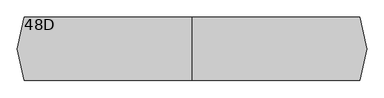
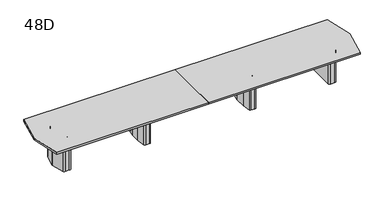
"""IFC4 building model written with IfcOpenShell, lengths in millimetres: furniture geometry, Coalesse_AM_Table_Conference_ETable2_Faceted_22ft_FourBase : 48D."""

from ifc_helpers import new_model, si_unit, frame, origin, place, context, project, spatial, polyline, circle_curve, outline, extrude, source, transform, mapped, element, save
from ifc_brep_helpers import plane_surface, cylinder_surface, revolved_surface, advanced_brep


def furniture_48d_5249ccaa(model_context):
    return source(origin(), model_context, "Body", "SolidModel", [
        advanced_brep(
        [(1153.31875, 206.375, 3.175), (1127.91875, 231.775, 3.175), (1107.28125, 231.775, 3.175), (1081.88125, 206.375, 3.175), (1081.88125, -206.375, 3.175), (1107.28125, -231.775, 3.175), (1127.91875, -231.775, 3.175), (1153.31875, -206.375, 3.175), (1056.48125, 206.375, 0.0), (1107.28125, 257.175, 0.0), (1127.91875, 257.175, 0.0), (1178.71875, 206.375, 0.0), (1178.71875, -206.375, 0.0), (1127.91875, -257.175, 0.0), (1107.28125, -257.175, 0.0), (1056.48125, -206.375, 0.0), (1056.48125, -206.375, 3.175), (1056.48125, 206.375, 3.175), (1107.28125, -257.175, 3.175), (1127.91875, -257.175, 3.175), (1178.71875, -206.375, 3.175), (1178.71875, 206.375, 3.175), (1127.91875, 257.175, 3.175), (1107.28125, 257.175, 3.175), (1024.9784026, 106.2976848, 698.5), (1024.73125, 102.7629613, 698.5), (1024.73125, -102.7629613, 698.5), (1024.9784026, -106.2976848, 698.5), (1049.8011625, -282.9347235, 698.5), (1074.9540098, -304.8, 698.5), (1160.2459902, -304.8, 698.5), (1185.3988375, -282.9347235, 698.5), (1210.2215974, -106.2976848, 698.5), (1210.46875, -102.7629613, 698.5), (1210.46875, 102.7629613, 698.5), (1210.2215974, 106.2976848, 698.5), (1185.3988375, 282.9347235, 698.5), (1160.2459902, 304.8, 698.5), (1074.9540098, 304.8, 698.5), (1049.8011625, 282.9347235, 698.5), (1127.91875, 231.775, 698.5), (1153.31875, 206.375, 698.5), (1153.31875, -206.375, 698.5), (1127.91875, -231.775, 698.5), (1107.28125, -231.775, 698.5), (1081.88125, -206.375, 698.5), (1081.88125, 206.375, 698.5), (1107.28125, 231.775, 698.5), (1024.9784026, 106.2976848, 3.175), (1049.8011625, 282.9347235, 3.175), (1074.9540098, 304.8, 3.175), (1160.2459902, 304.8, 3.175), (1185.3988375, 282.9347235, 3.175), (1210.2215974, 106.2976848, 3.175), (1210.46875, 102.7629613, 3.175), (1210.46875, -102.7629613, 3.175), (1210.2215974, -106.2976848, 3.175), (1185.3988375, -282.9347235, 3.175), (1160.2459902, -304.8, 3.175), (1074.9540098, -304.8, 3.175), (1049.8011625, -282.9347235, 3.175), (1024.9784026, -106.2976848, 3.175), (1024.73125, -102.7629613, 3.175), (1024.73125, 102.7629613, 3.175)],
        [
            (0, 1, circle_curve(frame((1127.91875, 206.375, 3.175), z_axis=(0.0, 0.0, 1.0), x_axis=(1.0, 0.0, 0.0)), 25.4)),
            (1, 2),
            (2, 3, circle_curve(frame((1107.28125, 206.375, 3.175), z_axis=(0.0, 0.0, 1.0), x_axis=(1.0, 0.0, 0.0)), 25.4)),
            (3, 4),
            (4, 5, circle_curve(frame((1107.28125, -206.375, 3.175), z_axis=(0.0, 0.0, 1.0), x_axis=(1.0, 0.0, 0.0)), 25.4)),
            (5, 6),
            (6, 7, circle_curve(frame((1127.91875, -206.375, 3.175), z_axis=(0.0, 0.0, 1.0), x_axis=(1.0, 0.0, 0.0)), 25.4)),
            (7, 0),
            (8, 9, circle_curve(frame((1107.28125, 206.375, 0.0), z_axis=(0.0, 0.0, -1.0), x_axis=(1.0, 0.0, 0.0)), 50.8)),
            (9, 10),
            (10, 11, circle_curve(frame((1127.91875, 206.375, 0.0), z_axis=(0.0, 0.0, -1.0), x_axis=(1.0, 0.0, 0.0)), 50.8)),
            (11, 12),
            (12, 13, circle_curve(frame((1127.91875, -206.375, 0.0), z_axis=(0.0, 0.0, -1.0), x_axis=(1.0, 0.0, 0.0)), 50.8)),
            (13, 14),
            (14, 15, circle_curve(frame((1107.28125, -206.375, 0.0), z_axis=(0.0, 0.0, -1.0), x_axis=(1.0, 0.0, 0.0)), 50.8)),
            (15, 8),
            (15, 16),
            (16, 17),
            (17, 8),
            (14, 18),
            (18, 16, circle_curve(frame((1107.28125, -206.375, 3.175), z_axis=(0.0, 0.0, -1.0), x_axis=(1.0, 0.0, 0.0)), 50.8)),
            (13, 19),
            (19, 18),
            (12, 20),
            (20, 19, circle_curve(frame((1127.91875, -206.375, 3.175), z_axis=(0.0, 0.0, -1.0), x_axis=(1.0, 0.0, 0.0)), 50.8)),
            (11, 21),
            (21, 20),
            (10, 22),
            (22, 21, circle_curve(frame((1127.91875, 206.375, 3.175), z_axis=(0.0, 0.0, -1.0), x_axis=(1.0, 0.0, 0.0)), 50.8)),
            (9, 23),
            (23, 22),
            (17, 23, circle_curve(frame((1107.28125, 206.375, 3.175), z_axis=(0.0, 0.0, -1.0), x_axis=(1.0, 0.0, 0.0)), 50.8)),
            (24, 25, circle_curve(frame((1050.13125, 102.7629613, 698.5), z_axis=(0.0, 0.0, 1.0), x_axis=(1.0, 0.0, 0.0)), 25.4)),
            (25, 26),
            (26, 27, circle_curve(frame((1050.13125, -102.7629613, 698.5), z_axis=(0.0, 0.0, 1.0), x_axis=(1.0, 0.0, 0.0)), 25.4)),
            (27, 28),
            (28, 29, circle_curve(frame((1074.9540098, -279.4, 698.5), z_axis=(0.0, 0.0, 1.0), x_axis=(1.0, 0.0, 0.0)), 25.4)),
            (29, 30),
            (30, 31, circle_curve(frame((1160.2459902, -279.4, 698.5), z_axis=(0.0, 0.0, 1.0), x_axis=(1.0, 0.0, 0.0)), 25.4)),
            (31, 32),
            (32, 33, circle_curve(frame((1185.06875, -102.7629613, 698.5), z_axis=(0.0, 0.0, 1.0), x_axis=(1.0, 0.0, 0.0)), 25.4)),
            (33, 34),
            (34, 35, circle_curve(frame((1185.06875, 102.7629613, 698.5), z_axis=(0.0, 0.0, 1.0), x_axis=(1.0, 0.0, 0.0)), 25.4)),
            (35, 36),
            (36, 37, circle_curve(frame((1160.2459902, 279.4, 698.5), z_axis=(0.0, 0.0, 1.0), x_axis=(1.0, 0.0, 0.0)), 25.4)),
            (37, 38),
            (38, 39, circle_curve(frame((1074.9540098, 279.4, 698.5), z_axis=(0.0, 0.0, 1.0), x_axis=(1.0, 0.0, 0.0)), 25.4)),
            (39, 24),
            (40, 41, circle_curve(frame((1127.91875, 206.375, 698.5), z_axis=(0.0, 0.0, -1.0), x_axis=(1.0, 0.0, 0.0)), 25.4)),
            (41, 42),
            (42, 43, circle_curve(frame((1127.91875, -206.375, 698.5), z_axis=(0.0, 0.0, -1.0), x_axis=(1.0, 0.0, 0.0)), 25.4)),
            (43, 44),
            (44, 45, circle_curve(frame((1107.28125, -206.375, 698.5), z_axis=(0.0, 0.0, -1.0), x_axis=(1.0, 0.0, 0.0)), 25.4)),
            (45, 46),
            (46, 47, circle_curve(frame((1107.28125, 206.375, 698.5), z_axis=(0.0, 0.0, -1.0), x_axis=(1.0, 0.0, 0.0)), 25.4)),
            (47, 40),
            (48, 49),
            (49, 50, circle_curve(frame((1074.9540098, 279.4, 3.175), z_axis=(0.0, 0.0, -1.0), x_axis=(1.0, 0.0, 0.0)), 25.4)),
            (50, 51),
            (51, 52, circle_curve(frame((1160.2459902, 279.4, 3.175), z_axis=(0.0, 0.0, -1.0), x_axis=(1.0, 0.0, 0.0)), 25.4)),
            (52, 53),
            (53, 54, circle_curve(frame((1185.06875, 102.7629613, 3.175), z_axis=(0.0, 0.0, -1.0), x_axis=(1.0, 0.0, 0.0)), 25.4)),
            (54, 55),
            (55, 56, circle_curve(frame((1185.06875, -102.7629613, 3.175), z_axis=(0.0, 0.0, -1.0), x_axis=(1.0, 0.0, 0.0)), 25.4)),
            (56, 57),
            (57, 58, circle_curve(frame((1160.2459902, -279.4, 3.175), z_axis=(0.0, 0.0, -1.0), x_axis=(1.0, 0.0, 0.0)), 25.4)),
            (58, 59),
            (59, 60, circle_curve(frame((1074.9540098, -279.4, 3.175), z_axis=(0.0, 0.0, -1.0), x_axis=(1.0, 0.0, 0.0)), 25.4)),
            (60, 61),
            (61, 62, circle_curve(frame((1050.13125, -102.7629613, 3.175), z_axis=(0.0, 0.0, -1.0), x_axis=(1.0, 0.0, 0.0)), 25.4)),
            (62, 63),
            (63, 48, circle_curve(frame((1050.13125, 102.7629613, 3.175), z_axis=(0.0, 0.0, -1.0), x_axis=(1.0, 0.0, 0.0)), 25.4)),
            (24, 48),
            (63, 25),
            (62, 26),
            (61, 27),
            (60, 28),
            (59, 29),
            (58, 30),
            (57, 31),
            (56, 32),
            (55, 33),
            (54, 34),
            (53, 35),
            (52, 36),
            (51, 37),
            (50, 38),
            (49, 39),
            (40, 1),
            (0, 41),
            (7, 42),
            (6, 43),
            (5, 44),
            (4, 45),
            (3, 46),
            (2, 47),
        ],
        [
            plane_surface(frame((1056.48125, -206.375, 3.175), z_axis=(0.0, 0.0, 1.0), x_axis=(0.0, -1.0, 0.0))),
            plane_surface(frame((1056.48125, -206.375, 0.0), z_axis=(0.0, 0.0, -1.0), x_axis=(0.0, 1.0, 0.0))),
            plane_surface(frame((1056.48125, 206.375, 3.175), z_axis=(-1.0, 0.0, 0.0), x_axis=(0.0, 0.0, -1.0))),
            cylinder_surface(frame((1107.28125, -206.375, 0.0), z_axis=(0.0, 0.0, 1.0), x_axis=(1.0, 0.0, 0.0)), 50.8),
            plane_surface(frame((1107.28125, -257.175, 3.175), z_axis=(0.0, -1.0, 0.0), x_axis=(0.0, 0.0, -1.0))),
            cylinder_surface(frame((1127.91875, -206.375, 0.0), z_axis=(0.0, 0.0, 1.0), x_axis=(1.0, 0.0, 0.0)), 50.8),
            plane_surface(frame((1178.71875, -206.375, 3.175), z_axis=(1.0, 0.0, 0.0), x_axis=(0.0, 0.0, -1.0))),
            cylinder_surface(frame((1127.91875, 206.375, 0.0), z_axis=(0.0, 0.0, 1.0), x_axis=(1.0, 0.0, 0.0)), 50.8),
            plane_surface(frame((1127.91875, 257.175, 3.175), z_axis=(0.0, 1.0, 0.0), x_axis=(0.0, 0.0, -1.0))),
            cylinder_surface(frame((1107.28125, 206.375, 0.0), z_axis=(0.0, 0.0, 1.0), x_axis=(1.0, 0.0, 0.0)), 50.8),
            plane_surface(frame((1075.53125, 102.7629613, 698.5), z_axis=(0.0, 0.0, 1.0), x_axis=(0.0, 1.0, 0.0))),
            plane_surface(frame((1075.53125, 102.7629613, 3.175), z_axis=(0.0, 0.0, -1.0), x_axis=(0.0, -1.0, 0.0))),
            cylinder_surface(frame((1050.13125, 102.7629613, 3.175), z_axis=(0.0, 0.0, 1.0), x_axis=(1.0, 0.0, 0.0)), 25.4),
            plane_surface(frame((1024.73125, 102.7629613, 698.5), z_axis=(-1.0, 0.0, 0.0), x_axis=(0.0, 0.0, -1.0))),
            cylinder_surface(frame((1050.13125, -102.7629613, 3.175), z_axis=(0.0, 0.0, 1.0), x_axis=(1.0, 0.0, 0.0)), 25.4),
            plane_surface(frame((1024.9784026, -106.2976848, 698.5), z_axis=(-0.9902695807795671, -0.13916234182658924, 0.0), x_axis=(0.0, 0.0, -1.0))),
            cylinder_surface(frame((1074.9540098, -279.4, 3.175), z_axis=(0.0, 0.0, 1.0), x_axis=(1.0, 0.0, 0.0)), 25.4),
            plane_surface(frame((1074.9540098, -304.8, 698.5), z_axis=(0.0, -1.0, 0.0), x_axis=(0.0, 0.0, -1.0))),
            cylinder_surface(frame((1160.2459902, -279.4, 3.175), z_axis=(0.0, 0.0, 1.0), x_axis=(1.0, 0.0, 0.0)), 25.4),
            plane_surface(frame((1185.3988375, -282.9347235, 698.5), z_axis=(0.9902695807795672, -0.13916234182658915, 0.0), x_axis=(0.0, 0.0, -1.0))),
            cylinder_surface(frame((1185.06875, -102.7629613, 3.175), z_axis=(0.0, 0.0, 1.0), x_axis=(1.0, 0.0, 0.0)), 25.4),
            plane_surface(frame((1210.46875, -102.7629613, 698.5), z_axis=(1.0, 0.0, 0.0), x_axis=(0.0, 0.0, -1.0))),
            cylinder_surface(frame((1185.06875, 102.7629613, 3.175), z_axis=(0.0, 0.0, 1.0), x_axis=(1.0, 0.0, 0.0)), 25.4),
            plane_surface(frame((1210.2215974, 106.2976848, 698.5), z_axis=(0.9902695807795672, 0.1391623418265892, 0.0), x_axis=(0.0, 0.0, -1.0))),
            cylinder_surface(frame((1160.2459902, 279.4, 3.175), z_axis=(0.0, 0.0, 1.0), x_axis=(1.0, 0.0, 0.0)), 25.4),
            plane_surface(frame((1160.2459902, 304.8, 698.5), z_axis=(0.0, 1.0, 0.0), x_axis=(0.0, 0.0, -1.0))),
            cylinder_surface(frame((1074.9540098, 279.4, 3.175), z_axis=(0.0, 0.0, 1.0), x_axis=(1.0, 0.0, 0.0)), 25.4),
            plane_surface(frame((1049.8011625, 282.9347235, 698.5), z_axis=(-0.9902695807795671, 0.13916234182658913, 0.0), x_axis=(0.0, 0.0, -1.0))),
            revolved_surface(polyline([(1153.3187500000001, 206.375, 3.175), (1153.3187500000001, 206.375, 698.5)]), (1127.91875, 206.375, 0.0), (0.0, 0.0, -1.0)),
            plane_surface(frame((1153.31875, 206.375, 698.5), z_axis=(-1.0, 0.0, 0.0), x_axis=(0.0, 0.0, -1.0))),
            revolved_surface(polyline([(1153.3187500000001, -206.375, 3.175), (1153.3187500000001, -206.375, 698.5)]), (1127.91875, -206.375, 0.0), (0.0, 0.0, -1.0)),
            plane_surface(frame((1127.91875, -231.775, 698.5), z_axis=(0.0, 1.0, 0.0), x_axis=(0.0, 0.0, -1.0))),
            revolved_surface(polyline([(1132.68125, -206.375, 3.175), (1132.68125, -206.375, 698.5)]), (1107.28125, -206.375, 0.0), (0.0, 0.0, -1.0)),
            plane_surface(frame((1081.88125, -206.375, 698.5), z_axis=(1.0, 0.0, 0.0), x_axis=(0.0, 0.0, -1.0))),
            revolved_surface(polyline([(1132.68125, 206.375, 3.175), (1132.68125, 206.375, 698.5)]), (1107.28125, 206.375, 0.0), (0.0, 0.0, -1.0)),
            plane_surface(frame((1107.28125, 231.775, 698.5), z_axis=(0.0, -1.0, 0.0), x_axis=(0.0, 0.0, -1.0))),
        ],
        [
            (0, [[1, 2, 3, 4, 5, 6, 7, 8]]),
            (1, [[9, 10, 11, 12, 13, 14, 15, 16]]),
            (2, [[-16, 17, 18, 19]]),
            (3, [[-15, 20, 21, -17]]),
            (4, [[-14, 22, 23, -20]]),
            (5, [[-13, 24, 25, -22]]),
            (6, [[-12, 26, 27, -24]]),
            (7, [[-11, 28, 29, -26]]),
            (8, [[-10, 30, 31, -28]]),
            (9, [[-9, -19, 32, -30]]),
            (10, [[33, 34, 35, 36, 37, 38, 39, 40, 41, 42, 43, 44, 45, 46, 47, 48], [49, 50, 51, 52, 53, 54, 55, 56]]),
            (11, [[57, 58, 59, 60, 61, 62, 63, 64, 65, 66, 67, 68, 69, 70, 71, 72], [-18, -21, -23, -25, -27, -29, -31, -32]]),
            (12, [[-33, 73, -72, 74]]),
            (13, [[-34, -74, -71, 75]]),
            (14, [[-35, -75, -70, 76]]),
            (15, [[-36, -76, -69, 77]]),
            (16, [[-37, -77, -68, 78]]),
            (17, [[-38, -78, -67, 79]]),
            (18, [[-39, -79, -66, 80]]),
            (19, [[-40, -80, -65, 81]]),
            (20, [[-41, -81, -64, 82]]),
            (21, [[-42, -82, -63, 83]]),
            (22, [[-43, -83, -62, 84]]),
            (23, [[-44, -84, -61, 85]]),
            (24, [[-45, -85, -60, 86]]),
            (25, [[-46, -86, -59, 87]]),
            (26, [[-47, -87, -58, 88]]),
            (27, [[-48, -88, -57, -73]]),
            (28, [[-49, 89, -1, 90]]),
            (29, [[-50, -90, -8, 91]]),
            (30, [[-51, -91, -7, 92]]),
            (31, [[-52, -92, -6, 93]]),
            (32, [[-53, -93, -5, 94]]),
            (33, [[-54, -94, -4, 95]]),
            (34, [[-55, -95, -3, 96]]),
            (35, [[-56, -96, -2, -89]]),
        ],
    ),
        advanced_brep(
        [(-1081.88125, 206.375, 3.175), (-1107.28125, 231.775, 3.175), (-1127.91875, 231.775, 3.175), (-1153.31875, 206.375, 3.175), (-1153.31875, -206.375, 3.175), (-1127.91875, -231.775, 3.175), (-1107.28125, -231.775, 3.175), (-1081.88125, -206.375, 3.175), (-1178.71875, 206.375, 0.0), (-1127.91875, 257.175, 0.0), (-1107.28125, 257.175, 0.0), (-1056.48125, 206.375, 0.0), (-1056.48125, -206.375, 0.0), (-1107.28125, -257.175, 0.0), (-1127.91875, -257.175, 0.0), (-1178.71875, -206.375, 0.0), (-1178.71875, -206.375, 3.175), (-1178.71875, 206.375, 3.175), (-1127.91875, -257.175, 3.175), (-1107.28125, -257.175, 3.175), (-1056.48125, -206.375, 3.175), (-1056.48125, 206.375, 3.175), (-1107.28125, 257.175, 3.175), (-1127.91875, 257.175, 3.175), (-1210.2215974, 106.2976848, 698.5), (-1210.46875, 102.7629613, 698.5), (-1210.46875, -102.7629613, 698.5), (-1210.2215974, -106.2976848, 698.5), (-1185.3988375, -282.9347235, 698.5), (-1160.2459902, -304.8, 698.5), (-1074.9540098, -304.8, 698.5), (-1049.8011625, -282.9347235, 698.5), (-1024.9784026, -106.2976848, 698.5), (-1024.73125, -102.7629613, 698.5), (-1024.73125, 102.7629613, 698.5), (-1024.9784026, 106.2976848, 698.5), (-1049.8011625, 282.9347235, 698.5), (-1074.9540098, 304.8, 698.5), (-1160.2459902, 304.8, 698.5), (-1185.3988375, 282.9347235, 698.5), (-1107.28125, 231.775, 698.5), (-1081.88125, 206.375, 698.5), (-1081.88125, -206.375, 698.5), (-1107.28125, -231.775, 698.5), (-1127.91875, -231.775, 698.5), (-1153.31875, -206.375, 698.5), (-1153.31875, 206.375, 698.5), (-1127.91875, 231.775, 698.5), (-1210.2215974, 106.2976848, 3.175), (-1185.3988375, 282.9347235, 3.175), (-1160.2459902, 304.8, 3.175), (-1074.9540098, 304.8, 3.175), (-1049.8011625, 282.9347235, 3.175), (-1024.9784026, 106.2976848, 3.175), (-1024.73125, 102.7629613, 3.175), (-1024.73125, -102.7629613, 3.175), (-1024.9784026, -106.2976848, 3.175), (-1049.8011625, -282.9347235, 3.175), (-1074.9540098, -304.8, 3.175), (-1160.2459902, -304.8, 3.175), (-1185.3988375, -282.9347235, 3.175), (-1210.2215974, -106.2976848, 3.175), (-1210.46875, -102.7629613, 3.175), (-1210.46875, 102.7629613, 3.175)],
        [
            (0, 1, circle_curve(frame((-1107.28125, 206.375, 3.175), z_axis=(0.0, 0.0, 1.0), x_axis=(1.0, 0.0, 0.0)), 25.4)),
            (1, 2),
            (2, 3, circle_curve(frame((-1127.91875, 206.375, 3.175), z_axis=(0.0, 0.0, 1.0), x_axis=(1.0, 0.0, 0.0)), 25.4)),
            (3, 4),
            (4, 5, circle_curve(frame((-1127.91875, -206.375, 3.175), z_axis=(0.0, 0.0, 1.0), x_axis=(1.0, 0.0, 0.0)), 25.4)),
            (5, 6),
            (6, 7, circle_curve(frame((-1107.28125, -206.375, 3.175), z_axis=(0.0, 0.0, 1.0), x_axis=(1.0, 0.0, 0.0)), 25.4)),
            (7, 0),
            (8, 9, circle_curve(frame((-1127.91875, 206.375, 0.0), z_axis=(0.0, 0.0, -1.0), x_axis=(1.0, 0.0, 0.0)), 50.8)),
            (9, 10),
            (10, 11, circle_curve(frame((-1107.28125, 206.375, 0.0), z_axis=(0.0, 0.0, -1.0), x_axis=(1.0, 0.0, 0.0)), 50.8)),
            (11, 12),
            (12, 13, circle_curve(frame((-1107.28125, -206.375, 0.0), z_axis=(0.0, 0.0, -1.0), x_axis=(1.0, 0.0, 0.0)), 50.8)),
            (13, 14),
            (14, 15, circle_curve(frame((-1127.91875, -206.375, 0.0), z_axis=(0.0, 0.0, -1.0), x_axis=(1.0, 0.0, 0.0)), 50.8)),
            (15, 8),
            (15, 16),
            (16, 17),
            (17, 8),
            (14, 18),
            (18, 16, circle_curve(frame((-1127.91875, -206.375, 3.175), z_axis=(0.0, 0.0, -1.0), x_axis=(1.0, 0.0, 0.0)), 50.8)),
            (13, 19),
            (19, 18),
            (12, 20),
            (20, 19, circle_curve(frame((-1107.28125, -206.375, 3.175), z_axis=(0.0, 0.0, -1.0), x_axis=(1.0, 0.0, 0.0)), 50.8)),
            (11, 21),
            (21, 20),
            (10, 22),
            (22, 21, circle_curve(frame((-1107.28125, 206.375, 3.175), z_axis=(0.0, 0.0, -1.0), x_axis=(1.0, 0.0, 0.0)), 50.8)),
            (9, 23),
            (23, 22),
            (17, 23, circle_curve(frame((-1127.91875, 206.375, 3.175), z_axis=(0.0, 0.0, -1.0), x_axis=(1.0, 0.0, 0.0)), 50.8)),
            (24, 25, circle_curve(frame((-1185.06875, 102.7629613, 698.5), z_axis=(0.0, 0.0, 1.0), x_axis=(1.0, 0.0, 0.0)), 25.4)),
            (25, 26),
            (26, 27, circle_curve(frame((-1185.06875, -102.7629613, 698.5), z_axis=(0.0, 0.0, 1.0), x_axis=(1.0, 0.0, 0.0)), 25.4)),
            (27, 28),
            (28, 29, circle_curve(frame((-1160.2459902, -279.4, 698.5), z_axis=(0.0, 0.0, 1.0), x_axis=(1.0, 0.0, 0.0)), 25.4)),
            (29, 30),
            (30, 31, circle_curve(frame((-1074.9540098, -279.4, 698.5), z_axis=(0.0, 0.0, 1.0), x_axis=(1.0, 0.0, 0.0)), 25.4)),
            (31, 32),
            (32, 33, circle_curve(frame((-1050.13125, -102.7629613, 698.5), z_axis=(0.0, 0.0, 1.0), x_axis=(1.0, 0.0, 0.0)), 25.4)),
            (33, 34),
            (34, 35, circle_curve(frame((-1050.13125, 102.7629613, 698.5), z_axis=(0.0, 0.0, 1.0), x_axis=(1.0, 0.0, 0.0)), 25.4)),
            (35, 36),
            (36, 37, circle_curve(frame((-1074.9540098, 279.4, 698.5), z_axis=(0.0, 0.0, 1.0), x_axis=(1.0, 0.0, 0.0)), 25.4)),
            (37, 38),
            (38, 39, circle_curve(frame((-1160.2459902, 279.4, 698.5), z_axis=(0.0, 0.0, 1.0), x_axis=(1.0, 0.0, 0.0)), 25.4)),
            (39, 24),
            (40, 41, circle_curve(frame((-1107.28125, 206.375, 698.5), z_axis=(0.0, 0.0, -1.0), x_axis=(1.0, 0.0, 0.0)), 25.4)),
            (41, 42),
            (42, 43, circle_curve(frame((-1107.28125, -206.375, 698.5), z_axis=(0.0, 0.0, -1.0), x_axis=(1.0, 0.0, 0.0)), 25.4)),
            (43, 44),
            (44, 45, circle_curve(frame((-1127.91875, -206.375, 698.5), z_axis=(0.0, 0.0, -1.0), x_axis=(1.0, 0.0, 0.0)), 25.4)),
            (45, 46),
            (46, 47, circle_curve(frame((-1127.91875, 206.375, 698.5), z_axis=(0.0, 0.0, -1.0), x_axis=(1.0, 0.0, 0.0)), 25.4)),
            (47, 40),
            (48, 49),
            (49, 50, circle_curve(frame((-1160.2459902, 279.4, 3.175), z_axis=(0.0, 0.0, -1.0), x_axis=(1.0, 0.0, 0.0)), 25.4)),
            (50, 51),
            (51, 52, circle_curve(frame((-1074.9540098, 279.4, 3.175), z_axis=(0.0, 0.0, -1.0), x_axis=(1.0, 0.0, 0.0)), 25.4)),
            (52, 53),
            (53, 54, circle_curve(frame((-1050.13125, 102.7629613, 3.175), z_axis=(0.0, 0.0, -1.0), x_axis=(1.0, 0.0, 0.0)), 25.4)),
            (54, 55),
            (55, 56, circle_curve(frame((-1050.13125, -102.7629613, 3.175), z_axis=(0.0, 0.0, -1.0), x_axis=(1.0, 0.0, 0.0)), 25.4)),
            (56, 57),
            (57, 58, circle_curve(frame((-1074.9540098, -279.4, 3.175), z_axis=(0.0, 0.0, -1.0), x_axis=(1.0, 0.0, 0.0)), 25.4)),
            (58, 59),
            (59, 60, circle_curve(frame((-1160.2459902, -279.4, 3.175), z_axis=(0.0, 0.0, -1.0), x_axis=(1.0, 0.0, 0.0)), 25.4)),
            (60, 61),
            (61, 62, circle_curve(frame((-1185.06875, -102.7629613, 3.175), z_axis=(0.0, 0.0, -1.0), x_axis=(1.0, 0.0, 0.0)), 25.4)),
            (62, 63),
            (63, 48, circle_curve(frame((-1185.06875, 102.7629613, 3.175), z_axis=(0.0, 0.0, -1.0), x_axis=(1.0, 0.0, 0.0)), 25.4)),
            (24, 48),
            (63, 25),
            (62, 26),
            (61, 27),
            (60, 28),
            (59, 29),
            (58, 30),
            (57, 31),
            (56, 32),
            (55, 33),
            (54, 34),
            (53, 35),
            (52, 36),
            (51, 37),
            (50, 38),
            (49, 39),
            (40, 1),
            (0, 41),
            (7, 42),
            (6, 43),
            (5, 44),
            (4, 45),
            (3, 46),
            (2, 47),
        ],
        [
            plane_surface(frame((-1178.71875, -206.375, 3.175), z_axis=(0.0, 0.0, 1.0), x_axis=(0.0, -1.0, 0.0))),
            plane_surface(frame((-1178.71875, -206.375, 0.0), z_axis=(0.0, 0.0, -1.0), x_axis=(0.0, 1.0, 0.0))),
            plane_surface(frame((-1178.71875, 206.375, 3.175), z_axis=(-1.0, 0.0, 0.0), x_axis=(0.0, 0.0, -1.0))),
            cylinder_surface(frame((-1127.91875, -206.375, 0.0), z_axis=(0.0, 0.0, 1.0), x_axis=(1.0, 0.0, 0.0)), 50.8),
            plane_surface(frame((-1127.91875, -257.175, 3.175), z_axis=(0.0, -1.0, 0.0), x_axis=(0.0, 0.0, -1.0))),
            cylinder_surface(frame((-1107.28125, -206.375, 0.0), z_axis=(0.0, 0.0, 1.0), x_axis=(1.0, 0.0, 0.0)), 50.8),
            plane_surface(frame((-1056.48125, -206.375, 3.175), z_axis=(1.0, 0.0, 0.0), x_axis=(0.0, 0.0, -1.0))),
            cylinder_surface(frame((-1107.28125, 206.375, 0.0), z_axis=(0.0, 0.0, 1.0), x_axis=(1.0, 0.0, 0.0)), 50.8),
            plane_surface(frame((-1107.28125, 257.175, 3.175), z_axis=(0.0, 1.0, 0.0), x_axis=(0.0, 0.0, -1.0))),
            cylinder_surface(frame((-1127.91875, 206.375, 0.0), z_axis=(0.0, 0.0, 1.0), x_axis=(1.0, 0.0, 0.0)), 50.8),
            plane_surface(frame((-1159.66875, 102.7629613, 698.5), z_axis=(0.0, 0.0, 1.0), x_axis=(0.0, 1.0, 0.0))),
            plane_surface(frame((-1159.66875, 102.7629613, 3.175), z_axis=(0.0, 0.0, -1.0), x_axis=(0.0, -1.0, 0.0))),
            cylinder_surface(frame((-1185.06875, 102.7629613, 3.175), z_axis=(0.0, 0.0, 1.0), x_axis=(1.0, 0.0, 0.0)), 25.4),
            plane_surface(frame((-1210.46875, 102.7629613, 698.5), z_axis=(-1.0, 0.0, 0.0), x_axis=(0.0, 0.0, -1.0))),
            cylinder_surface(frame((-1185.06875, -102.7629613, 3.175), z_axis=(0.0, 0.0, 1.0), x_axis=(1.0, 0.0, 0.0)), 25.4),
            plane_surface(frame((-1210.2215974, -106.2976848, 698.5), z_axis=(-0.9902695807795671, -0.13916234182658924, 0.0), x_axis=(0.0, 0.0, -1.0))),
            cylinder_surface(frame((-1160.2459902, -279.4, 3.175), z_axis=(0.0, 0.0, 1.0), x_axis=(1.0, 0.0, 0.0)), 25.4),
            plane_surface(frame((-1160.2459902, -304.8, 698.5), z_axis=(0.0, -1.0, 0.0), x_axis=(0.0, 0.0, -1.0))),
            cylinder_surface(frame((-1074.9540098, -279.4, 3.175), z_axis=(0.0, 0.0, 1.0), x_axis=(1.0, 0.0, 0.0)), 25.4),
            plane_surface(frame((-1049.8011625, -282.9347235, 698.5), z_axis=(0.9902695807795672, -0.13916234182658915, 0.0), x_axis=(0.0, 0.0, -1.0))),
            cylinder_surface(frame((-1050.13125, -102.7629613, 3.175), z_axis=(0.0, 0.0, 1.0), x_axis=(1.0, 0.0, 0.0)), 25.4),
            plane_surface(frame((-1024.73125, -102.7629613, 698.5), z_axis=(1.0, 0.0, 0.0), x_axis=(0.0, 0.0, -1.0))),
            cylinder_surface(frame((-1050.13125, 102.7629613, 3.175), z_axis=(0.0, 0.0, 1.0), x_axis=(1.0, 0.0, 0.0)), 25.4),
            plane_surface(frame((-1024.9784026, 106.2976848, 698.5), z_axis=(0.9902695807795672, 0.1391623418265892, 0.0), x_axis=(0.0, 0.0, -1.0))),
            cylinder_surface(frame((-1074.9540098, 279.4, 3.175), z_axis=(0.0, 0.0, 1.0), x_axis=(1.0, 0.0, 0.0)), 25.4),
            plane_surface(frame((-1074.9540098, 304.8, 698.5), z_axis=(0.0, 1.0, 0.0), x_axis=(0.0, 0.0, -1.0))),
            cylinder_surface(frame((-1160.2459902, 279.4, 3.175), z_axis=(0.0, 0.0, 1.0), x_axis=(1.0, 0.0, 0.0)), 25.4),
            plane_surface(frame((-1185.3988375, 282.9347235, 698.5), z_axis=(-0.9902695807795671, 0.13916234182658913, 0.0), x_axis=(0.0, 0.0, -1.0))),
            revolved_surface(polyline([(-1081.88125, 206.375, 3.175), (-1081.88125, 206.375, 698.5)]), (-1107.28125, 206.375, 0.0), (0.0, 0.0, -1.0)),
            plane_surface(frame((-1081.88125, 206.375, 698.5), z_axis=(-1.0, 0.0, 0.0), x_axis=(0.0, 0.0, -1.0))),
            revolved_surface(polyline([(-1081.88125, -206.375, 3.175), (-1081.88125, -206.375, 698.5)]), (-1107.28125, -206.375, 0.0), (0.0, 0.0, -1.0)),
            plane_surface(frame((-1107.28125, -231.775, 698.5), z_axis=(0.0, 1.0, 0.0), x_axis=(0.0, 0.0, -1.0))),
            revolved_surface(polyline([(-1102.51875, -206.375, 3.175), (-1102.51875, -206.375, 698.5)]), (-1127.91875, -206.375, 0.0), (0.0, 0.0, -1.0)),
            plane_surface(frame((-1153.31875, -206.375, 698.5), z_axis=(1.0, 0.0, 0.0), x_axis=(0.0, 0.0, -1.0))),
            revolved_surface(polyline([(-1102.51875, 206.375, 3.175), (-1102.51875, 206.375, 698.5)]), (-1127.91875, 206.375, 0.0), (0.0, 0.0, -1.0)),
            plane_surface(frame((-1127.91875, 231.775, 698.5), z_axis=(0.0, -1.0, 0.0), x_axis=(0.0, 0.0, -1.0))),
        ],
        [
            (0, [[1, 2, 3, 4, 5, 6, 7, 8]]),
            (1, [[9, 10, 11, 12, 13, 14, 15, 16]]),
            (2, [[-16, 17, 18, 19]]),
            (3, [[-15, 20, 21, -17]]),
            (4, [[-14, 22, 23, -20]]),
            (5, [[-13, 24, 25, -22]]),
            (6, [[-12, 26, 27, -24]]),
            (7, [[-11, 28, 29, -26]]),
            (8, [[-10, 30, 31, -28]]),
            (9, [[-9, -19, 32, -30]]),
            (10, [[33, 34, 35, 36, 37, 38, 39, 40, 41, 42, 43, 44, 45, 46, 47, 48], [49, 50, 51, 52, 53, 54, 55, 56]]),
            (11, [[57, 58, 59, 60, 61, 62, 63, 64, 65, 66, 67, 68, 69, 70, 71, 72], [-18, -21, -23, -25, -27, -29, -31, -32]]),
            (12, [[-33, 73, -72, 74]]),
            (13, [[-34, -74, -71, 75]]),
            (14, [[-35, -75, -70, 76]]),
            (15, [[-36, -76, -69, 77]]),
            (16, [[-37, -77, -68, 78]]),
            (17, [[-38, -78, -67, 79]]),
            (18, [[-39, -79, -66, 80]]),
            (19, [[-40, -80, -65, 81]]),
            (20, [[-41, -81, -64, 82]]),
            (21, [[-42, -82, -63, 83]]),
            (22, [[-43, -83, -62, 84]]),
            (23, [[-44, -84, -61, 85]]),
            (24, [[-45, -85, -60, 86]]),
            (25, [[-46, -86, -59, 87]]),
            (26, [[-47, -87, -58, 88]]),
            (27, [[-48, -88, -57, -73]]),
            (28, [[-49, 89, -1, 90]]),
            (29, [[-50, -90, -8, 91]]),
            (30, [[-51, -91, -7, 92]]),
            (31, [[-52, -92, -6, 93]]),
            (32, [[-53, -93, -5, 94]]),
            (33, [[-54, -94, -4, 95]]),
            (34, [[-55, -95, -3, 96]]),
            (35, [[-56, -96, -2, -89]]),
        ],
    ),
        advanced_brep(
        [(2894.224548, 274.2093613, 698.5), (2854.3579246, 304.8, 698.5), (2765.425, 304.8, 698.5), (2724.15, 263.525, 698.5), (2724.15, -263.525, 698.5), (2765.425, -304.8, 698.5), (2854.3579246, -304.8, 698.5), (2894.224548, -274.2093613, 698.5), (2964.8503901, -10.6333708, 698.5), (2964.8503901, 10.6333708, 698.5), (2762.25, -206.375, 698.5), (2762.25, 206.375, 698.5), (2787.65, 231.775, 698.5), (2846.6608422, 231.775, 698.5), (2871.195338, 212.9490792, 698.5), (2909.8875, 68.54974, 698.5), (2909.8875, -68.54974, 698.5), (2871.195338, -212.9490792, 698.5), (2846.6608422, -231.775, 698.5), (2787.65, -231.775, 698.5), (2894.224548, 274.2093613, 3.175), (2964.8503901, 10.6333708, 3.175), (2964.8503901, -10.6333708, 3.175), (2894.224548, -274.2093613, 3.175), (2854.3579246, -304.8, 3.175), (2765.425, -304.8, 3.175), (2724.15, -263.525, 3.175), (2724.15, 263.525, 3.175), (2765.425, 304.8, 3.175), (2854.3579246, 304.8, 3.175), (2883.4625859, 216.2361187, 3.175), (2846.6608422, 244.475, 3.175), (2787.65, 244.475, 3.175), (2749.55, 206.375, 3.175), (2749.55, -206.375, 3.175), (2787.65, -244.475, 3.175), (2846.6608422, -244.475, 3.175), (2883.4625859, -216.2361187, 3.175), (2922.5875, -70.2217466, 3.175), (2922.5875, 70.2217466, 3.175), (2787.65, -231.775, 3.175), (2762.25, -206.375, 3.175), (2846.6608422, -231.775, 3.175), (2871.195338, -212.9490792, 3.175), (2909.8875, -68.54974, 3.175), (2909.8875, 68.54974, 3.175), (2871.195338, 212.9490792, 3.175), (2846.6608422, 231.775, 3.175), (2787.65, 231.775, 3.175), (2762.25, 206.375, 3.175), (2883.4625859, 216.2361187, 0.0), (2922.5875, 70.2217466, 0.0), (2922.5875, -70.2217466, 0.0), (2883.4625859, -216.2361187, 0.0), (2846.6608422, -244.475, 0.0), (2787.65, -244.475, 0.0), (2749.55, -206.375, 0.0), (2749.55, 206.375, 0.0), (2787.65, 244.475, 0.0), (2846.6608422, 244.475, 0.0)],
        [
            (0, 1, circle_curve(frame((2854.3579246, 263.5270004, 698.5), z_axis=(0.0, 0.0, 1.0), x_axis=(-1.0, 0.0, 0.0)), 41.2729996)),
            (1, 2),
            (2, 3, circle_curve(frame((2765.425, 263.525, 698.5), z_axis=(0.0, 0.0, 1.0), x_axis=(-1.0, 0.0, 0.0)), 41.275)),
            (3, 4),
            (4, 5, circle_curve(frame((2765.425, -263.525, 698.5), z_axis=(0.0, 0.0, 1.0), x_axis=(-1.0, 0.0, 0.0)), 41.275)),
            (5, 6),
            (6, 7, circle_curve(frame((2854.3579246, -263.5270004, 698.5), z_axis=(0.0, 0.0, 1.0), x_axis=(-1.0, 0.0, 0.0)), 41.2729996)),
            (7, 8),
            (8, 9, circle_curve(frame((2925.1665979, 0.0, 698.5), z_axis=(0.0, 0.0, 1.0), x_axis=(-1.0, 0.0, 0.0)), 41.0837187)),
            (9, 0),
            (10, 11),
            (11, 12, circle_curve(frame((2787.65, 206.375, 698.5), z_axis=(0.0, 0.0, -1.0), x_axis=(-1.0, 0.0, 0.0)), 25.4)),
            (12, 13),
            (13, 14, circle_curve(frame((2846.6608422, 206.375, 698.5), z_axis=(0.0, 0.0, -1.0), x_axis=(-1.0, 0.0, 0.0)), 25.4)),
            (14, 15),
            (15, 16),
            (16, 17),
            (17, 18, circle_curve(frame((2846.6608422, -206.375, 698.5), z_axis=(0.0, 0.0, -1.0), x_axis=(-1.0, 0.0, 0.0)), 25.4)),
            (18, 19),
            (19, 10, circle_curve(frame((2787.65, -206.375, 698.5), z_axis=(0.0, 0.0, -1.0), x_axis=(-1.0, 0.0, 0.0)), 25.4)),
            (20, 21),
            (21, 22, circle_curve(frame((2925.1665979, 0.0, 3.175), z_axis=(0.0, 0.0, -1.0), x_axis=(-1.0, 0.0, 0.0)), 41.0837187)),
            (22, 23),
            (23, 24, circle_curve(frame((2854.3579246, -263.5270004, 3.175), z_axis=(0.0, 0.0, -1.0), x_axis=(-1.0, 0.0, 0.0)), 41.2729996)),
            (24, 25),
            (25, 26, circle_curve(frame((2765.425, -263.525, 3.175), z_axis=(0.0, 0.0, -1.0), x_axis=(-1.0, 0.0, 0.0)), 41.275)),
            (26, 27),
            (27, 28, circle_curve(frame((2765.425, 263.525, 3.175), z_axis=(0.0, 0.0, -1.0), x_axis=(-1.0, 0.0, 0.0)), 41.275)),
            (28, 29),
            (29, 20, circle_curve(frame((2854.3579246, 263.5270004, 3.175), z_axis=(0.0, 0.0, -1.0), x_axis=(-1.0, 0.0, 0.0)), 41.2729996)),
            (30, 31, circle_curve(frame((2846.6608422, 206.375, 3.175), z_axis=(0.0, 0.0, 1.0), x_axis=(-1.0, 0.0, 0.0)), 38.1)),
            (31, 32),
            (32, 33, circle_curve(frame((2787.65, 206.375, 3.175), z_axis=(0.0, 0.0, 1.0), x_axis=(-1.0, 0.0, 0.0)), 38.1)),
            (33, 34),
            (34, 35, circle_curve(frame((2787.65, -206.375, 3.175), z_axis=(0.0, 0.0, 1.0), x_axis=(-1.0, 0.0, 0.0)), 38.1)),
            (35, 36),
            (36, 37, circle_curve(frame((2846.6608422, -206.375, 3.175), z_axis=(0.0, 0.0, 1.0), x_axis=(-1.0, 0.0, 0.0)), 38.1)),
            (37, 38),
            (38, 39),
            (39, 30),
            (9, 21),
            (20, 0),
            (8, 22),
            (7, 23),
            (6, 24),
            (5, 25),
            (4, 26),
            (3, 27),
            (2, 28),
            (1, 29),
            (19, 40),
            (40, 41, circle_curve(frame((2787.65, -206.375, 3.175), z_axis=(0.0, 0.0, -1.0), x_axis=(-1.0, 0.0, 0.0)), 25.4)),
            (41, 10),
            (18, 42),
            (42, 40),
            (17, 43),
            (43, 42, circle_curve(frame((2846.6608422, -206.375, 3.175), z_axis=(0.0, 0.0, -1.0), x_axis=(-1.0, 0.0, 0.0)), 25.4)),
            (16, 44),
            (44, 43),
            (15, 45),
            (45, 44),
            (14, 46),
            (46, 45),
            (13, 47),
            (47, 46, circle_curve(frame((2846.6608422, 206.375, 3.175), z_axis=(0.0, 0.0, -1.0), x_axis=(-1.0, 0.0, 0.0)), 25.4)),
            (12, 48),
            (48, 47),
            (11, 49),
            (49, 48, circle_curve(frame((2787.65, 206.375, 3.175), z_axis=(0.0, 0.0, -1.0), x_axis=(-1.0, 0.0, 0.0)), 25.4)),
            (41, 49),
            (50, 51),
            (51, 52),
            (52, 53),
            (53, 54, circle_curve(frame((2846.6608422, -206.375, 0.0), z_axis=(0.0, 0.0, -1.0), x_axis=(-1.0, 0.0, 0.0)), 38.1)),
            (54, 55),
            (55, 56, circle_curve(frame((2787.65, -206.375, 0.0), z_axis=(0.0, 0.0, -1.0), x_axis=(-1.0, 0.0, 0.0)), 38.1)),
            (56, 57),
            (57, 58, circle_curve(frame((2787.65, 206.375, 0.0), z_axis=(0.0, 0.0, -1.0), x_axis=(-1.0, 0.0, 0.0)), 38.1)),
            (58, 59),
            (59, 50, circle_curve(frame((2846.6608422, 206.375, 0.0), z_axis=(0.0, 0.0, -1.0), x_axis=(-1.0, 0.0, 0.0)), 38.1)),
            (50, 30),
            (39, 51),
            (38, 52),
            (37, 53),
            (36, 54),
            (35, 55),
            (34, 56),
            (33, 57),
            (32, 58),
            (31, 59),
        ],
        [
            plane_surface(frame((2964.8374275, 10.6817473, 698.5), z_axis=(0.0, 0.0, 1.0000000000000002), x_axis=(0.25882201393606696, -0.9659250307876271, 0.0))),
            plane_surface(frame((2964.8374275, 10.6817473, 3.175), z_axis=(0.0, 0.0, -1.0000000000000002), x_axis=(-0.25882201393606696, 0.9659250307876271, 0.0))),
            plane_surface(frame((2894.224548, 274.2093613, 698.5), z_axis=(0.9659250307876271, 0.25882201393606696, 0.0), x_axis=(0.0, 0.0, -1.0))),
            cylinder_surface(frame((2925.1665979, 0.0, 3.175), z_axis=(0.0, 0.0, 1.0), x_axis=(-1.0, 0.0, 0.0)), 41.0837187),
            plane_surface(frame((2964.8503901, -10.6333708, 698.5), z_axis=(0.9659250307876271, -0.2588220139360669, 0.0), x_axis=(0.0, 0.0, -1.0))),
            cylinder_surface(frame((2854.3579246, -263.5270004, 3.175), z_axis=(0.0, 0.0, 1.0), x_axis=(-1.0, 0.0, 0.0)), 41.2729996),
            plane_surface(frame((2854.3579246, -304.8, 698.5), z_axis=(0.0, -1.0, 0.0), x_axis=(0.0, 0.0, -1.0))),
            cylinder_surface(frame((2765.425, -263.525, 3.175), z_axis=(0.0, 0.0, 1.0), x_axis=(-1.0, 0.0, 0.0)), 41.275),
            plane_surface(frame((2724.15, -263.525, 698.5), z_axis=(-1.0, 0.0, 0.0), x_axis=(0.0, 0.0, -1.0))),
            cylinder_surface(frame((2765.425, 263.525, 3.175), z_axis=(0.0, 0.0, 1.0), x_axis=(-1.0, 0.0, 0.0)), 41.275),
            plane_surface(frame((2765.425, 304.8, 698.5), z_axis=(0.0, 1.0, 0.0), x_axis=(0.0, 0.0, -1.0))),
            cylinder_surface(frame((2854.3579246, 263.5270004, 3.175), z_axis=(0.0, 0.0, 1.0), x_axis=(-1.0, 0.0, 0.0)), 41.2729996),
            revolved_surface(polyline([(2762.25, -206.375, 3.175), (2762.25, -206.375, 698.5)]), (2787.65, -206.375, 0.0), (0.0, 0.0, -1.0)),
            plane_surface(frame((2787.65, -231.775, 698.5), z_axis=(0.0, 1.0, 0.0), x_axis=(0.0, 0.0, -1.0))),
            revolved_surface(polyline([(2821.2608422, -206.375, 3.175), (2821.2608422, -206.375, 698.5)]), (2846.6608422, -206.375, 0.0), (0.0, 0.0, -1.0)),
            plane_surface(frame((2871.195338, -212.9490792, 698.5), z_axis=(-0.9659250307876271, 0.2588220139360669, 0.0), x_axis=(0.0, 0.0, -1.0))),
            plane_surface(frame((2909.8875, -68.54974, 698.5), z_axis=(-1.0, 0.0, 0.0), x_axis=(0.0, 0.0, -1.0))),
            plane_surface(frame((2909.8875, 68.54974, 698.5), z_axis=(-0.9659250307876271, -0.25882201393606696, 0.0), x_axis=(0.0, 0.0, -1.0))),
            revolved_surface(polyline([(2821.2608422, 206.375, 3.175), (2821.2608422, 206.375, 698.5)]), (2846.6608422, 206.375, 0.0), (0.0, 0.0, -1.0)),
            plane_surface(frame((2846.6608422, 231.775, 698.5), z_axis=(0.0, -1.0, 0.0), x_axis=(0.0, 0.0, -1.0))),
            revolved_surface(polyline([(2762.25, 206.375, 3.175), (2762.25, 206.375, 698.5)]), (2787.65, 206.375, 0.0), (0.0, 0.0, -1.0)),
            plane_surface(frame((2762.25, 206.375, 698.5), z_axis=(1.0, 0.0, 0.0), x_axis=(0.0, 0.0, -1.0))),
            plane_surface(frame((2922.1547479, 71.8367796, 3.175), z_axis=(0.0, 0.0, 1.0), x_axis=(0.25882201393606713, -0.965925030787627, 0.0))),
            plane_surface(frame((2922.1547479, 71.8367796, 0.0), z_axis=(0.0, 0.0, -1.0), x_axis=(-0.25882201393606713, 0.965925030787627, 0.0))),
            plane_surface(frame((2883.4625859, 216.2361187, 3.175), z_axis=(0.965925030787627, 0.25882201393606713, 0.0), x_axis=(0.0, 0.0, -1.0))),
            plane_surface(frame((2922.5875, 70.2217466, 3.175), z_axis=(1.0, 0.0, 0.0), x_axis=(0.0, 0.0, -1.0))),
            plane_surface(frame((2922.5875, -70.2217466, 3.175), z_axis=(0.9659250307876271, -0.2588220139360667, 0.0), x_axis=(0.0, 0.0, -1.0))),
            cylinder_surface(frame((2846.6608422, -206.375, 0.0), z_axis=(0.0, 0.0, 1.0), x_axis=(-1.0, 0.0, 0.0)), 38.1),
            plane_surface(frame((2846.6608422, -244.475, 3.175), z_axis=(0.0, -1.0, 0.0), x_axis=(0.0, 0.0, -1.0))),
            cylinder_surface(frame((2787.65, -206.375, 0.0), z_axis=(0.0, 0.0, 1.0), x_axis=(-1.0, 0.0, 0.0)), 38.1),
            plane_surface(frame((2749.55, -206.375, 3.175), z_axis=(-1.0, 0.0, 0.0), x_axis=(0.0, 0.0, -1.0))),
            cylinder_surface(frame((2787.65, 206.375, 0.0), z_axis=(0.0, 0.0, 1.0), x_axis=(-1.0, 0.0, 0.0)), 38.1),
            plane_surface(frame((2787.65, 244.475, 3.175), z_axis=(0.0, 1.0, 0.0), x_axis=(0.0, 0.0, -1.0))),
            cylinder_surface(frame((2846.6608422, 206.375, 0.0), z_axis=(0.0, 0.0, 1.0), x_axis=(-1.0, 0.0, 0.0)), 38.1),
        ],
        [
            (0, [[1, 2, 3, 4, 5, 6, 7, 8, 9, 10], [11, 12, 13, 14, 15, 16, 17, 18, 19, 20]]),
            (1, [[21, 22, 23, 24, 25, 26, 27, 28, 29, 30], [31, 32, 33, 34, 35, 36, 37, 38, 39, 40]]),
            (2, [[41, -21, 42, -10]]),
            (3, [[43, -22, -41, -9]]),
            (4, [[44, -23, -43, -8]]),
            (5, [[45, -24, -44, -7]]),
            (6, [[46, -25, -45, -6]]),
            (7, [[47, -26, -46, -5]]),
            (8, [[48, -27, -47, -4]]),
            (9, [[49, -28, -48, -3]]),
            (10, [[50, -29, -49, -2]]),
            (11, [[-42, -30, -50, -1]]),
            (12, [[51, 52, 53, -20]]),
            (13, [[54, 55, -51, -19]]),
            (14, [[56, 57, -54, -18]]),
            (15, [[58, 59, -56, -17]]),
            (16, [[60, 61, -58, -16]]),
            (17, [[62, 63, -60, -15]]),
            (18, [[64, 65, -62, -14]]),
            (19, [[66, 67, -64, -13]]),
            (20, [[68, 69, -66, -12]]),
            (21, [[-53, 70, -68, -11]]),
            (22, [[-55, -57, -59, -61, -63, -65, -67, -69, -70, -52]]),
            (23, [[71, 72, 73, 74, 75, 76, 77, 78, 79, 80]]),
            (24, [[81, -40, 82, -71]]),
            (25, [[-82, -39, 83, -72]]),
            (26, [[-83, -38, 84, -73]]),
            (27, [[-84, -37, 85, -74]]),
            (28, [[-85, -36, 86, -75]]),
            (29, [[-86, -35, 87, -76]]),
            (30, [[-87, -34, 88, -77]]),
            (31, [[-88, -33, 89, -78]]),
            (32, [[-89, -32, 90, -79]]),
            (33, [[-90, -31, -81, -80]]),
        ],
    ),
        advanced_brep(
        [(-2905.337048, 274.2093613, 698.5), (-2975.9628901, 10.6333708, 698.5), (-2975.9628901, -10.6333708, 698.5), (-2905.337048, -274.2093613, 698.5), (-2865.4704246, -304.8, 698.5), (-2776.5375, -304.8, 698.5), (-2735.2625, -263.525, 698.5), (-2735.2625, 263.525, 698.5), (-2776.5375, 304.8, 698.5), (-2865.4704246, 304.8, 698.5), (-2773.3625, -206.375, 698.5), (-2798.7625, -231.775, 698.5), (-2857.7733422, -231.775, 698.5), (-2882.307838, -212.9490792, 698.5), (-2921.0, -68.54974, 698.5), (-2921.0, 68.54974, 698.5), (-2882.307838, 212.9490792, 698.5), (-2857.7733422, 231.775, 698.5), (-2798.7625, 231.775, 698.5), (-2773.3625, 206.375, 698.5), (-2905.337048, 274.2093613, 3.175), (-2865.4704246, 304.8, 3.175), (-2776.5375, 304.8, 3.175), (-2735.2625, 263.525, 3.175), (-2735.2625, -263.525, 3.175), (-2776.5375, -304.8, 3.175), (-2865.4704246, -304.8, 3.175), (-2905.337048, -274.2093613, 3.175), (-2975.9628901, -10.6333708, 3.175), (-2975.9628901, 10.6333708, 3.175), (-2894.5750859, 216.2361187, 3.175), (-2933.7, 70.2217466, 3.175), (-2933.7, -70.2217466, 3.175), (-2894.5750859, -216.2361187, 3.175), (-2857.7733422, -244.475, 3.175), (-2798.7625, -244.475, 3.175), (-2760.6625, -206.375, 3.175), (-2760.6625, 206.375, 3.175), (-2798.7625, 244.475, 3.175), (-2857.7733422, 244.475, 3.175), (-2773.3625, -206.375, 3.175), (-2798.7625, -231.775, 3.175), (-2857.7733422, -231.775, 3.175), (-2882.307838, -212.9490792, 3.175), (-2921.0, -68.54974, 3.175), (-2921.0, 68.54974, 3.175), (-2882.307838, 212.9490792, 3.175), (-2857.7733422, 231.775, 3.175), (-2798.7625, 231.775, 3.175), (-2773.3625, 206.375, 3.175), (-2894.5750859, 216.2361187, 0.0), (-2857.7733422, 244.475, 0.0), (-2798.7625, 244.475, 0.0), (-2760.6625, 206.375, 0.0), (-2760.6625, -206.375, 0.0), (-2798.7625, -244.475, 0.0), (-2857.7733422, -244.475, 0.0), (-2894.5750859, -216.2361187, 0.0), (-2933.7, -70.2217466, 0.0), (-2933.7, 70.2217466, 0.0)],
        [
            (0, 1),
            (1, 2, circle_curve(frame((-2936.2790979, 0.0, 698.5), z_axis=(0.0, 0.0, 1.0), x_axis=(1.0, 0.0, 0.0)), 41.0837187)),
            (2, 3),
            (3, 4, circle_curve(frame((-2865.4704246, -263.5270004, 698.5), z_axis=(0.0, 0.0, 1.0), x_axis=(1.0, 0.0, 0.0)), 41.2729996)),
            (4, 5),
            (5, 6, circle_curve(frame((-2776.5375, -263.525, 698.5), z_axis=(0.0, 0.0, 1.0), x_axis=(1.0, 0.0, 0.0)), 41.275)),
            (6, 7),
            (7, 8, circle_curve(frame((-2776.5375, 263.525, 698.5), z_axis=(0.0, 0.0, 1.0), x_axis=(1.0, 0.0, 0.0)), 41.275)),
            (8, 9),
            (9, 0, circle_curve(frame((-2865.4704246, 263.5270004, 698.5), z_axis=(0.0, 0.0, 1.0), x_axis=(1.0, 0.0, 0.0)), 41.2729996)),
            (10, 11, circle_curve(frame((-2798.7625, -206.375, 698.5), z_axis=(0.0, 0.0, -1.0), x_axis=(1.0, 0.0, 0.0)), 25.4)),
            (11, 12),
            (12, 13, circle_curve(frame((-2857.7733422, -206.375, 698.5), z_axis=(0.0, 0.0, -1.0), x_axis=(1.0, 0.0, 0.0)), 25.4)),
            (13, 14),
            (14, 15),
            (15, 16),
            (16, 17, circle_curve(frame((-2857.7733422, 206.375, 698.5), z_axis=(0.0, 0.0, -1.0), x_axis=(1.0, 0.0, 0.0)), 25.4)),
            (17, 18),
            (18, 19, circle_curve(frame((-2798.7625, 206.375, 698.5), z_axis=(0.0, 0.0, -1.0), x_axis=(1.0, 0.0, 0.0)), 25.4)),
            (19, 10),
            (20, 21, circle_curve(frame((-2865.4704246, 263.5270004, 3.175), z_axis=(0.0, 0.0, -1.0), x_axis=(1.0, 0.0, 0.0)), 41.2729996)),
            (21, 22),
            (22, 23, circle_curve(frame((-2776.5375, 263.525, 3.175), z_axis=(0.0, 0.0, -1.0), x_axis=(1.0, 0.0, 0.0)), 41.275)),
            (23, 24),
            (24, 25, circle_curve(frame((-2776.5375, -263.525, 3.175), z_axis=(0.0, 0.0, -1.0), x_axis=(1.0, 0.0, 0.0)), 41.275)),
            (25, 26),
            (26, 27, circle_curve(frame((-2865.4704246, -263.5270004, 3.175), z_axis=(0.0, 0.0, -1.0), x_axis=(1.0, 0.0, 0.0)), 41.2729996)),
            (27, 28),
            (28, 29, circle_curve(frame((-2936.2790979, 0.0, 3.175), z_axis=(0.0, 0.0, -1.0), x_axis=(1.0, 0.0, 0.0)), 41.0837187)),
            (29, 20),
            (30, 31),
            (31, 32),
            (32, 33),
            (33, 34, circle_curve(frame((-2857.7733422, -206.375, 3.175), z_axis=(0.0, 0.0, 1.0), x_axis=(1.0, 0.0, 0.0)), 38.1)),
            (34, 35),
            (35, 36, circle_curve(frame((-2798.7625, -206.375, 3.175), z_axis=(0.0, 0.0, 1.0), x_axis=(1.0, 0.0, 0.0)), 38.1)),
            (36, 37),
            (37, 38, circle_curve(frame((-2798.7625, 206.375, 3.175), z_axis=(0.0, 0.0, 1.0), x_axis=(1.0, 0.0, 0.0)), 38.1)),
            (38, 39),
            (39, 30, circle_curve(frame((-2857.7733422, 206.375, 3.175), z_axis=(0.0, 0.0, 1.0), x_axis=(1.0, 0.0, 0.0)), 38.1)),
            (0, 20),
            (29, 1),
            (28, 2),
            (27, 3),
            (26, 4),
            (25, 5),
            (24, 6),
            (23, 7),
            (22, 8),
            (21, 9),
            (10, 40),
            (40, 41, circle_curve(frame((-2798.7625, -206.375, 3.175), z_axis=(0.0, 0.0, -1.0), x_axis=(1.0, 0.0, 0.0)), 25.4)),
            (41, 11),
            (41, 42),
            (42, 12),
            (42, 43, circle_curve(frame((-2857.7733422, -206.375, 3.175), z_axis=(0.0, 0.0, -1.0), x_axis=(1.0, 0.0, 0.0)), 25.4)),
            (43, 13),
            (43, 44),
            (44, 14),
            (44, 45),
            (45, 15),
            (45, 46),
            (46, 16),
            (46, 47, circle_curve(frame((-2857.7733422, 206.375, 3.175), z_axis=(0.0, 0.0, -1.0), x_axis=(1.0, 0.0, 0.0)), 25.4)),
            (47, 17),
            (47, 48),
            (48, 18),
            (48, 49, circle_curve(frame((-2798.7625, 206.375, 3.175), z_axis=(0.0, 0.0, -1.0), x_axis=(1.0, 0.0, 0.0)), 25.4)),
            (49, 19),
            (49, 40),
            (50, 51, circle_curve(frame((-2857.7733422, 206.375, 0.0), z_axis=(0.0, 0.0, -1.0), x_axis=(1.0, 0.0, 0.0)), 38.1)),
            (51, 52),
            (52, 53, circle_curve(frame((-2798.7625, 206.375, 0.0), z_axis=(0.0, 0.0, -1.0), x_axis=(1.0, 0.0, 0.0)), 38.1)),
            (53, 54),
            (54, 55, circle_curve(frame((-2798.7625, -206.375, 0.0), z_axis=(0.0, 0.0, -1.0), x_axis=(1.0, 0.0, 0.0)), 38.1)),
            (55, 56),
            (56, 57, circle_curve(frame((-2857.7733422, -206.375, 0.0), z_axis=(0.0, 0.0, -1.0), x_axis=(1.0, 0.0, 0.0)), 38.1)),
            (57, 58),
            (58, 59),
            (59, 50),
            (59, 31),
            (30, 50),
            (58, 32),
            (57, 33),
            (56, 34),
            (55, 35),
            (54, 36),
            (53, 37),
            (52, 38),
            (51, 39),
        ],
        [
            plane_surface(frame((-2975.9499275, 10.6817473, 698.5), z_axis=(0.0, 0.0, 1.0000000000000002), x_axis=(-0.25882201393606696, -0.9659250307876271, 0.0))),
            plane_surface(frame((-2975.9499275, 10.6817473, 3.175), z_axis=(0.0, 0.0, -1.0000000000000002), x_axis=(0.25882201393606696, 0.9659250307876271, 0.0))),
            plane_surface(frame((-2905.337048, 274.2093613, 698.5), z_axis=(-0.9659250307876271, 0.25882201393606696, 0.0), x_axis=(0.0, 0.0, -1.0))),
            cylinder_surface(frame((-2936.2790979, 0.0, 3.175), z_axis=(0.0, 0.0, 1.0), x_axis=(1.0, 0.0, 0.0)), 41.0837187),
            plane_surface(frame((-2975.9628901, -10.6333708, 698.5), z_axis=(-0.9659250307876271, -0.2588220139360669, 0.0), x_axis=(0.0, 0.0, -1.0))),
            cylinder_surface(frame((-2865.4704246, -263.5270004, 3.175), z_axis=(0.0, 0.0, 1.0), x_axis=(1.0, 0.0, 0.0)), 41.2729996),
            plane_surface(frame((-2865.4704246, -304.8, 698.5), z_axis=(0.0, -1.0, 0.0), x_axis=(0.0, 0.0, -1.0))),
            cylinder_surface(frame((-2776.5375, -263.525, 3.175), z_axis=(0.0, 0.0, 1.0), x_axis=(1.0, 0.0, 0.0)), 41.275),
            plane_surface(frame((-2735.2625, -263.525, 698.5), z_axis=(1.0, 0.0, 0.0), x_axis=(0.0, 0.0, -1.0))),
            cylinder_surface(frame((-2776.5375, 263.525, 3.175), z_axis=(0.0, 0.0, 1.0), x_axis=(1.0, 0.0, 0.0)), 41.275),
            plane_surface(frame((-2776.5375, 304.8, 698.5), z_axis=(0.0, 1.0, 0.0), x_axis=(0.0, 0.0, -1.0))),
            cylinder_surface(frame((-2865.4704246, 263.5270004, 3.175), z_axis=(0.0, 0.0, 1.0), x_axis=(1.0, 0.0, 0.0)), 41.2729996),
            revolved_surface(polyline([(-2773.3624999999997, -206.375, 3.175), (-2773.3624999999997, -206.375, 698.5)]), (-2798.7625, -206.375, 0.0), (0.0, 0.0, -1.0)),
            plane_surface(frame((-2798.7625, -231.775, 698.5), z_axis=(0.0, 1.0, 0.0), x_axis=(0.0, 0.0, -1.0))),
            revolved_surface(polyline([(-2832.3733422, -206.375, 3.175), (-2832.3733422, -206.375, 698.5)]), (-2857.7733422, -206.375, 0.0), (0.0, 0.0, -1.0)),
            plane_surface(frame((-2882.307838, -212.9490792, 698.5), z_axis=(0.9659250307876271, 0.2588220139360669, 0.0), x_axis=(0.0, 0.0, -1.0))),
            plane_surface(frame((-2921.0, -68.54974, 698.5), z_axis=(1.0, 0.0, 0.0), x_axis=(0.0, 0.0, -1.0))),
            plane_surface(frame((-2921.0, 68.54974, 698.5), z_axis=(0.9659250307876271, -0.25882201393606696, 0.0), x_axis=(0.0, 0.0, -1.0))),
            revolved_surface(polyline([(-2832.3733422, 206.375, 3.175), (-2832.3733422, 206.375, 698.5)]), (-2857.7733422, 206.375, 0.0), (0.0, 0.0, -1.0)),
            plane_surface(frame((-2857.7733422, 231.775, 698.5), z_axis=(0.0, -1.0, 0.0), x_axis=(0.0, 0.0, -1.0))),
            revolved_surface(polyline([(-2773.3624999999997, 206.375, 3.175), (-2773.3624999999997, 206.375, 698.5)]), (-2798.7625, 206.375, 0.0), (0.0, 0.0, -1.0)),
            plane_surface(frame((-2773.3625, 206.375, 698.5), z_axis=(-1.0, 0.0, 0.0), x_axis=(0.0, 0.0, -1.0))),
            plane_surface(frame((-2933.2672479, 71.8367796, 3.175), z_axis=(0.0, 0.0, 1.0), x_axis=(-0.25882201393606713, -0.965925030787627, 0.0))),
            plane_surface(frame((-2933.2672479, 71.8367796, 0.0), z_axis=(0.0, 0.0, -1.0), x_axis=(0.25882201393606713, 0.965925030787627, 0.0))),
            plane_surface(frame((-2894.5750859, 216.2361187, 3.175), z_axis=(-0.965925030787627, 0.25882201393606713, 0.0), x_axis=(0.0, 0.0, -1.0))),
            plane_surface(frame((-2933.7, 70.2217466, 3.175), z_axis=(-1.0, 0.0, 0.0), x_axis=(0.0, 0.0, -1.0))),
            plane_surface(frame((-2933.7, -70.2217466, 3.175), z_axis=(-0.9659250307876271, -0.2588220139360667, 0.0), x_axis=(0.0, 0.0, -1.0))),
            cylinder_surface(frame((-2857.7733422, -206.375, 0.0), z_axis=(0.0, 0.0, 1.0), x_axis=(1.0, 0.0, 0.0)), 38.1),
            plane_surface(frame((-2857.7733422, -244.475, 3.175), z_axis=(0.0, -1.0, 0.0), x_axis=(0.0, 0.0, -1.0))),
            cylinder_surface(frame((-2798.7625, -206.375, 0.0), z_axis=(0.0, 0.0, 1.0), x_axis=(1.0, 0.0, 0.0)), 38.1),
            plane_surface(frame((-2760.6625, -206.375, 3.175), z_axis=(1.0, 0.0, 0.0), x_axis=(0.0, 0.0, -1.0))),
            cylinder_surface(frame((-2798.7625, 206.375, 0.0), z_axis=(0.0, 0.0, 1.0), x_axis=(1.0, 0.0, 0.0)), 38.1),
            plane_surface(frame((-2798.7625, 244.475, 3.175), z_axis=(0.0, 1.0, 0.0), x_axis=(0.0, 0.0, -1.0))),
            cylinder_surface(frame((-2857.7733422, 206.375, 0.0), z_axis=(0.0, 0.0, 1.0), x_axis=(1.0, 0.0, 0.0)), 38.1),
        ],
        [
            (0, [[1, 2, 3, 4, 5, 6, 7, 8, 9, 10], [11, 12, 13, 14, 15, 16, 17, 18, 19, 20]]),
            (1, [[21, 22, 23, 24, 25, 26, 27, 28, 29, 30], [31, 32, 33, 34, 35, 36, 37, 38, 39, 40]]),
            (2, [[-1, 41, -30, 42]]),
            (3, [[-2, -42, -29, 43]]),
            (4, [[-3, -43, -28, 44]]),
            (5, [[-4, -44, -27, 45]]),
            (6, [[-5, -45, -26, 46]]),
            (7, [[-6, -46, -25, 47]]),
            (8, [[-7, -47, -24, 48]]),
            (9, [[-8, -48, -23, 49]]),
            (10, [[-9, -49, -22, 50]]),
            (11, [[-10, -50, -21, -41]]),
            (12, [[-11, 51, 52, 53]]),
            (13, [[-12, -53, 54, 55]]),
            (14, [[-13, -55, 56, 57]]),
            (15, [[-14, -57, 58, 59]]),
            (16, [[-15, -59, 60, 61]]),
            (17, [[-16, -61, 62, 63]]),
            (18, [[-17, -63, 64, 65]]),
            (19, [[-18, -65, 66, 67]]),
            (20, [[-19, -67, 68, 69]]),
            (21, [[-20, -69, 70, -51]]),
            (22, [[-52, -70, -68, -66, -64, -62, -60, -58, -56, -54]]),
            (23, [[71, 72, 73, 74, 75, 76, 77, 78, 79, 80]]),
            (24, [[-80, 81, -31, 82]]),
            (25, [[-79, 83, -32, -81]]),
            (26, [[-78, 84, -33, -83]]),
            (27, [[-77, 85, -34, -84]]),
            (28, [[-76, 86, -35, -85]]),
            (29, [[-75, 87, -36, -86]]),
            (30, [[-74, 88, -37, -87]]),
            (31, [[-73, 89, -38, -88]]),
            (32, [[-72, 90, -39, -89]]),
            (33, [[-71, -82, -40, -90]]),
        ],
    ),
        extrude(outline(polyline([(3217.6541794, 609.6), (3352.8, 0.0), (3217.6541794, -609.6), (0.0, -609.6), (0.0, 7.1178102), (0.0, 609.6), (3217.6541794, 609.6)])), frame((0.0, 0.0, 698.5), z_axis=(0.0, 0.0, 1.0), x_axis=(1.0, 0.0, 0.0)), (0.0, 0.0, 1.0), 38.1),
        extrude(outline(polyline([(0.0, 119.0384901), (0.0, -609.6), (-3217.6541794, -609.6), (-3352.8, 0.0), (-3217.6541794, 609.6), (0.0, 609.6), (0.0, 119.0384901)])), frame((0.0, 0.0, 698.5), z_axis=(0.0, 0.0, 1.0), x_axis=(1.0, 0.0, 0.0)), (0.0, 0.0, 1.0), 38.1),
        extrude(outline(polyline([(96.8375, 698.5), (103.1875, 698.5), (103.1875, 476.25), (-103.1875, 476.25), (-103.1875, 698.5), (-96.8375, 698.5), (-96.8375, 482.6), (96.8375, 482.6), (96.8375, 698.5)])), frame((-2735.2625, 0.0, 0.0), z_axis=(1.0, 0.0, 0.0), x_axis=(0.0, 1.0, 0.0)), (0.0, 0.0, 1.0), 5459.4125),
    ])


if __name__ == "__main__":
    model = new_model("IFC4")
    model_context = context("Model", 3, world=origin())
    ifc_project = project(units=[si_unit("LENGTHUNIT", "METRE", prefix="MILLI")], contexts=[model_context])
    site = spatial("IfcSite", under=ifc_project)
    building = spatial("IfcBuilding", under=site)
    placement = place(None, origin())
    furniture_48d_shape = furniture_48d_5249ccaa(model_context)
    element("IfcFurniture", 1, ObjectType="Coalesse_AM_Table_Conference_ETable2_Faceted_22ft_FourBase : 48D", at=placement, inside=building, context=model_context, shape_type="MappedRepresentation", body=[
        mapped(furniture_48d_shape, transform((0.0, 0.0, 0.0), x_axis=(1.0, 0.0, 0.0), y_axis=(0.0, 1.0, 0.0), z_axis=(0.0, 0.0, 1.0))),
    ])
    save(model, "model.ifc")
